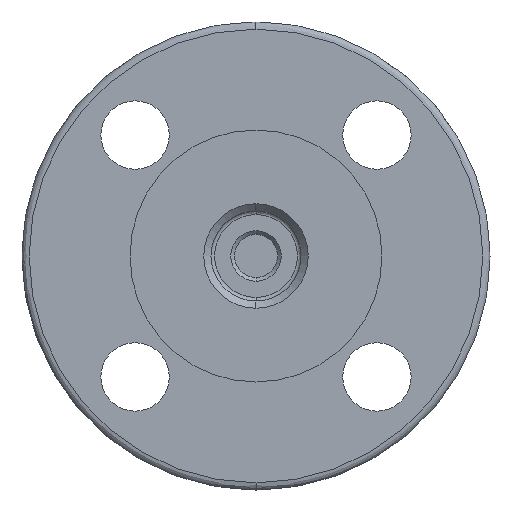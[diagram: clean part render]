
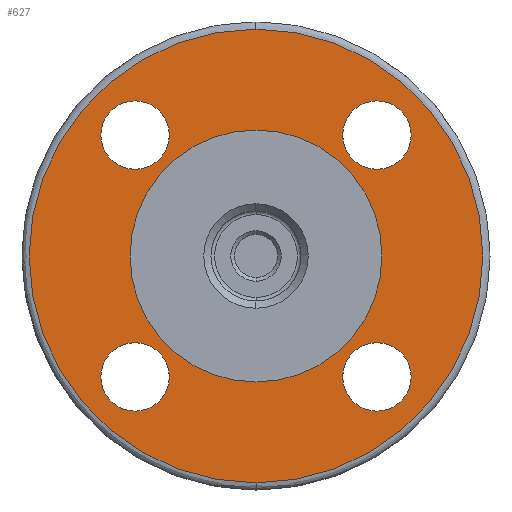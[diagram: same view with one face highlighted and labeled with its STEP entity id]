
A CAD part, left-side view. The second image highlights one B-rep face of the part: STEP entity #627.
In plain terms, the highlighted planar face has unit normal (-1, 0, 0).
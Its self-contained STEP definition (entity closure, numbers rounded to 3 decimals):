
#627=ADVANCED_FACE('',(#3287,#3288,#3289,#3290,#3291,#3292),#3286,.F.);
#3286=PLANE('',#6988);
#3287=FACE_OUTER_BOUND('',#6989,.T.);
#3288=FACE_BOUND('',#6990,.T.);
#3289=FACE_BOUND('',#6991,.T.);
#3290=FACE_BOUND('',#6992,.T.);
#3291=FACE_BOUND('',#6993,.T.);
#3292=FACE_BOUND('',#6994,.T.);
#6985=CARTESIAN_POINT('',(-68.5,-119.119,73.));
#6986=DIRECTION('',(1.,0.,0.));
#6987=DIRECTION('',(0.,0.,-1.));
#6988=AXIS2_PLACEMENT_3D('',#6985,#6986,#6987);
#6989=EDGE_LOOP('',(#8785,#8786));
#6990=EDGE_LOOP('',(#8787,#8788));
#6991=EDGE_LOOP('',(#8789,#8790));
#6992=EDGE_LOOP('',(#8791,#8792));
#6993=EDGE_LOOP('',(#8793,#8794));
#6994=EDGE_LOOP('',(#8795,#8796));
#8785=ORIENTED_EDGE('',*,*,#9628,.T.);
#8786=ORIENTED_EDGE('',*,*,#9629,.T.);
#8787=ORIENTED_EDGE('',*,*,#9630,.F.);
#8788=ORIENTED_EDGE('',*,*,#9631,.F.);
#8789=ORIENTED_EDGE('',*,*,#9632,.F.);
#8790=ORIENTED_EDGE('',*,*,#9633,.F.);
#8791=ORIENTED_EDGE('',*,*,#9634,.F.);
#8792=ORIENTED_EDGE('',*,*,#9635,.F.);
#8793=ORIENTED_EDGE('',*,*,#9636,.F.);
#8794=ORIENTED_EDGE('',*,*,#9637,.F.);
#8795=ORIENTED_EDGE('',*,*,#9638,.F.);
#8796=ORIENTED_EDGE('',*,*,#9639,.F.);
#9628=EDGE_CURVE('',#13513,#13514,#13515,.T.);
#9629=EDGE_CURVE('',#13514,#13513,#13521,.T.);
#9630=EDGE_CURVE('',#13527,#13528,#13529,.T.);
#9631=EDGE_CURVE('',#13528,#13527,#13535,.T.);
#9632=EDGE_CURVE('',#13541,#13542,#13543,.T.);
#9633=EDGE_CURVE('',#13542,#13541,#13549,.T.);
#9634=EDGE_CURVE('',#13555,#13556,#13557,.T.);
#9635=EDGE_CURVE('',#13556,#13555,#13563,.T.);
#9636=EDGE_CURVE('',#13569,#13570,#13571,.T.);
#9637=EDGE_CURVE('',#13570,#13569,#13577,.T.);
#9638=EDGE_CURVE('',#13583,#13584,#13585,.T.);
#9639=EDGE_CURVE('',#13584,#13583,#13591,.T.);
#13513=VERTEX_POINT('',#17302);
#13514=VERTEX_POINT('',#17303);
#13515=CIRCLE('',#17307,63.);
#13521=CIRCLE('',#17311,63.);
#13527=VERTEX_POINT('',#17312);
#13528=VERTEX_POINT('',#17313);
#13529=CIRCLE('',#17317,9.5);
#13535=CIRCLE('',#17321,9.5);
#13541=VERTEX_POINT('',#17322);
#13542=VERTEX_POINT('',#17323);
#13543=CIRCLE('',#17327,35.);
#13549=CIRCLE('',#17331,35.);
#13555=VERTEX_POINT('',#17332);
#13556=VERTEX_POINT('',#17333);
#13557=CIRCLE('',#17337,9.5);
#13563=CIRCLE('',#17341,9.5);
#13569=VERTEX_POINT('',#17342);
#13570=VERTEX_POINT('',#17343);
#13571=CIRCLE('',#17347,9.5);
#13577=CIRCLE('',#17351,9.5);
#13583=VERTEX_POINT('',#17352);
#13584=VERTEX_POINT('',#17353);
#13585=CIRCLE('',#17357,9.5);
#13591=CIRCLE('',#17361,9.5);
#17302=CARTESIAN_POINT('',(-68.5,0.,63.));
#17303=CARTESIAN_POINT('',(-68.5,0.,-63.));
#17304=CARTESIAN_POINT('',(-68.5,0.,0.));
#17305=DIRECTION('',(-1.,0.,0.));
#17306=DIRECTION('',(0.,0.,1.));
#17307=AXIS2_PLACEMENT_3D('',#17304,#17305,#17306);
#17308=CARTESIAN_POINT('',(-68.5,0.,0.));
#17309=DIRECTION('',(-1.,0.,0.));
#17310=DIRECTION('',(0.,0.,1.));
#17311=AXIS2_PLACEMENT_3D('',#17308,#17309,#17310);
#17312=CARTESIAN_POINT('',(-68.5,33.588,-24.088));
#17313=CARTESIAN_POINT('',(-68.5,33.588,-43.088));
#17314=CARTESIAN_POINT('',(-68.5,33.588,-33.588));
#17315=DIRECTION('',(-1.,0.,0.));
#17316=DIRECTION('',(0.,0.,-1.));
#17317=AXIS2_PLACEMENT_3D('',#17314,#17315,#17316);
#17318=CARTESIAN_POINT('',(-68.5,33.588,-33.588));
#17319=DIRECTION('',(-1.,0.,0.));
#17320=DIRECTION('',(0.,0.,-1.));
#17321=AXIS2_PLACEMENT_3D('',#17318,#17319,#17320);
#17322=CARTESIAN_POINT('',(-68.5,0.,-35.));
#17323=CARTESIAN_POINT('',(-68.5,0.,35.));
#17324=CARTESIAN_POINT('',(-68.5,0.,0.));
#17325=DIRECTION('',(-1.,0.,0.));
#17326=DIRECTION('',(0.,0.,1.));
#17327=AXIS2_PLACEMENT_3D('',#17324,#17325,#17326);
#17328=CARTESIAN_POINT('',(-68.5,0.,0.));
#17329=DIRECTION('',(-1.,0.,0.));
#17330=DIRECTION('',(0.,0.,1.));
#17331=AXIS2_PLACEMENT_3D('',#17328,#17329,#17330);
#17332=CARTESIAN_POINT('',(-68.5,-33.588,43.088));
#17333=CARTESIAN_POINT('',(-68.5,-33.588,24.088));
#17334=CARTESIAN_POINT('',(-68.5,-33.588,33.588));
#17335=DIRECTION('',(-1.,0.,0.));
#17336=DIRECTION('',(0.,0.,-1.));
#17337=AXIS2_PLACEMENT_3D('',#17334,#17335,#17336);
#17338=CARTESIAN_POINT('',(-68.5,-33.588,33.588));
#17339=DIRECTION('',(-1.,0.,0.));
#17340=DIRECTION('',(0.,0.,-1.));
#17341=AXIS2_PLACEMENT_3D('',#17338,#17339,#17340);
#17342=CARTESIAN_POINT('',(-68.5,-33.588,-24.088));
#17343=CARTESIAN_POINT('',(-68.5,-33.588,-43.088));
#17344=CARTESIAN_POINT('',(-68.5,-33.588,-33.588));
#17345=DIRECTION('',(-1.,0.,0.));
#17346=DIRECTION('',(0.,0.,-1.));
#17347=AXIS2_PLACEMENT_3D('',#17344,#17345,#17346);
#17348=CARTESIAN_POINT('',(-68.5,-33.588,-33.588));
#17349=DIRECTION('',(-1.,0.,0.));
#17350=DIRECTION('',(0.,0.,-1.));
#17351=AXIS2_PLACEMENT_3D('',#17348,#17349,#17350);
#17352=CARTESIAN_POINT('',(-68.5,33.588,43.088));
#17353=CARTESIAN_POINT('',(-68.5,33.588,24.088));
#17354=CARTESIAN_POINT('',(-68.5,33.588,33.588));
#17355=DIRECTION('',(-1.,0.,0.));
#17356=DIRECTION('',(0.,0.,-1.));
#17357=AXIS2_PLACEMENT_3D('',#17354,#17355,#17356);
#17358=CARTESIAN_POINT('',(-68.5,33.588,33.588));
#17359=DIRECTION('',(-1.,0.,0.));
#17360=DIRECTION('',(0.,0.,-1.));
#17361=AXIS2_PLACEMENT_3D('',#17358,#17359,#17360);
